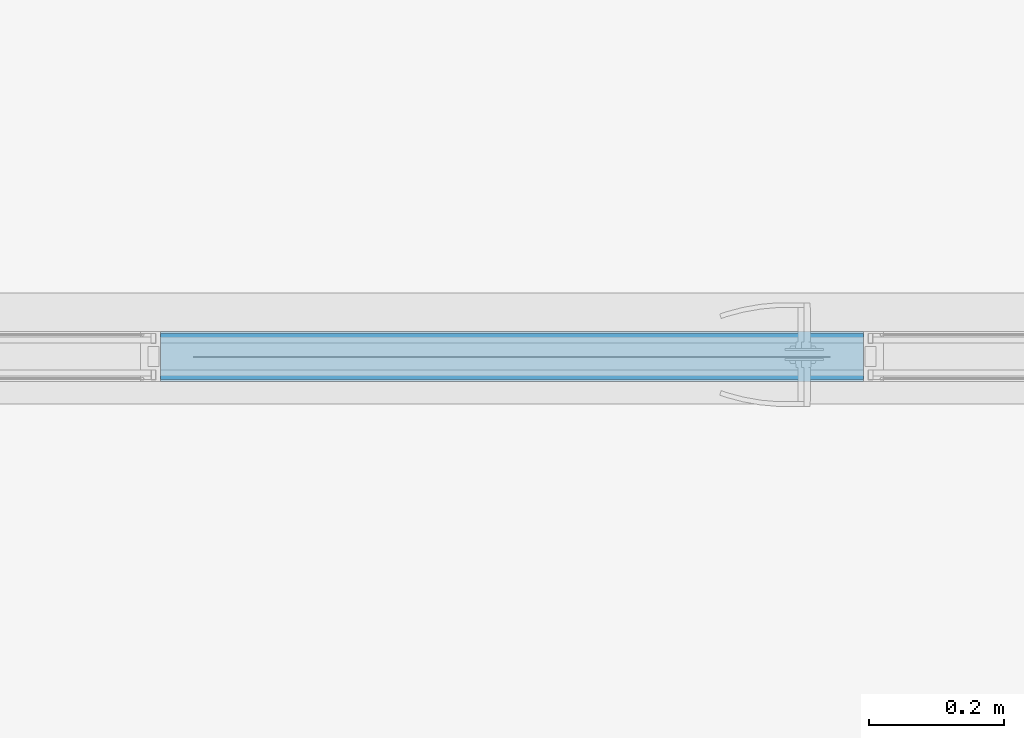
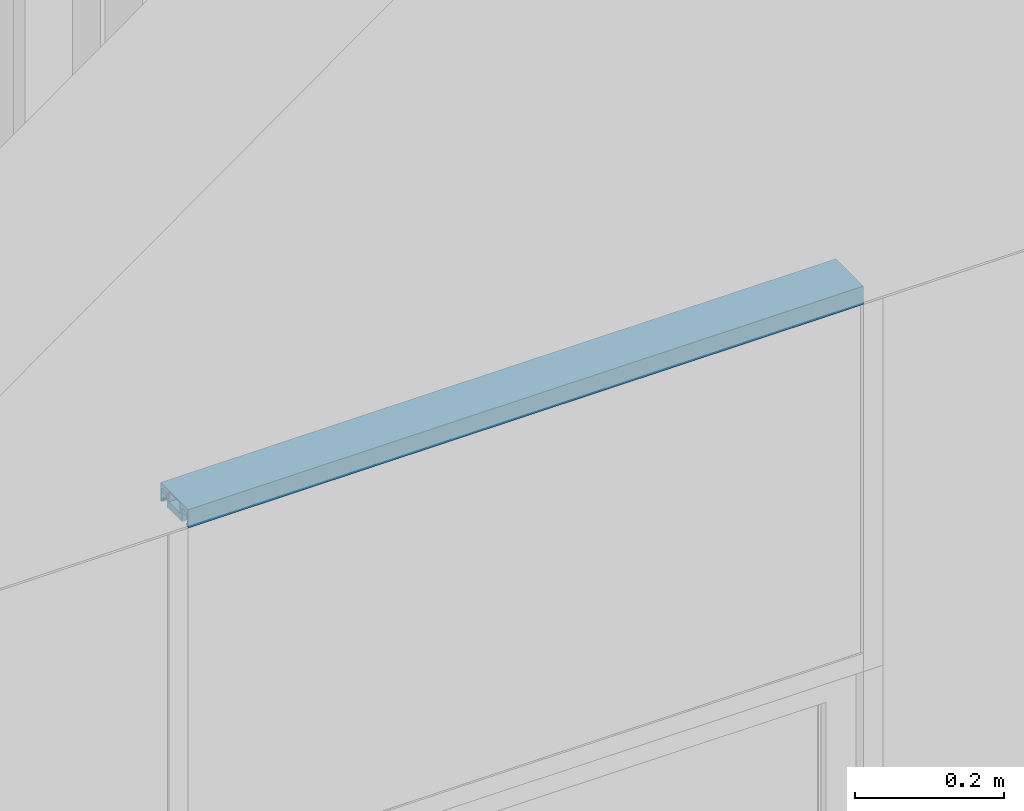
# One storey, part 76 of 387: 2 building element parts, 2 elements without a shape of their own.
"""IFC2X3 building model written with IfcOpenShell, lengths in millimetres."""

from ifc_helpers import new_model, entity, si_unit, converted_unit, derived_unit, money_unit, direction, frame, origin_with_axes, place, context, subcontext, project, spatial, faceted_brep, source, transform, mapped, material, type_object, element, aggregate, save


model = new_model("IFC2X3")

# Units and contexts
model_context = context("Model", 3, precision=0.01, world=origin_with_axes(), true_north=direction((0.0, 1.0)))
body_context = subcontext(model_context, "Body", "Model", "MODEL_VIEW")
ifc_project = project(units=[si_unit("LENGTHUNIT", "METRE", prefix="MILLI"), si_unit("AREAUNIT", "SQUARE_METRE"), si_unit("VOLUMEUNIT", "CUBIC_METRE"), converted_unit("PLANEANGLEUNIT", "DEGREE", entity("IfcPlaneAngleMeasure", 0.0174532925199), si_unit("PLANEANGLEUNIT", "RADIAN"), dimensions=[0, 0, 0, 0, 0, 0, 0]), si_unit("SOLIDANGLEUNIT", "STERADIAN"), money_unit("EUR"), converted_unit("TIMEUNIT", "Year", entity("IfcTimeMeasure", 31556926.0), si_unit("TIMEUNIT", "SECOND"), dimensions=[0, 0, 1, 0, 0, 0, 0]), si_unit("MASSUNIT", "GRAM", prefix="KILO"), si_unit("THERMODYNAMICTEMPERATUREUNIT", "DEGREE_CELSIUS"), si_unit("LUMINOUSINTENSITYUNIT", "LUMEN"), si_unit("ENERGYUNIT", "JOULE", prefix="MEGA"), derived_unit("THERMALCONDUCTANCEUNIT", [(si_unit("POWERUNIT", "WATT"), 1), (si_unit("LENGTHUNIT", "METRE"), -1), (si_unit("THERMODYNAMICTEMPERATUREUNIT", "KELVIN"), -1)]), derived_unit("SPECIFICHEATCAPACITYUNIT", [(si_unit("ENERGYUNIT", "JOULE"), 1), (si_unit("MASSUNIT", "GRAM", prefix="KILO"), -1), (si_unit("THERMODYNAMICTEMPERATUREUNIT", "KELVIN"), -1)]), derived_unit("MASSDENSITYUNIT", [(si_unit("MASSUNIT", "GRAM", prefix="KILO"), 1), (si_unit("VOLUMEUNIT", "CUBIC_METRE"), -1)])], contexts=[model_context])

# Site, building, storey
site_placement = place(None, origin_with_axes())
site = spatial("IfcSite", under=ifc_project, at=site_placement, Name="Puškini 31, Narva", CompositionType="ELEMENT")
building_placement = place(site_placement, origin_with_axes())
building = spatial("IfcBuilding", under=site, at=building_placement, Name="Narva Riigigümnaasium", CompositionType="ELEMENT")
storey_placement = place(building_placement, frame((0.0, 0.0, 2640.0), z_axis=(0.0, 0.0, 1.0), x_axis=(1.0, 0.0, 0.0)))
storey = spatial("IfcBuildingStorey", under=building, at=storey_placement, Name="2.korrus +2.64", CompositionType="ELEMENT", Elevation=2640.0)

# Curtain wall, member, building element parts
curtain_wall_type = type_object("IfcCurtainWallType", Name="Curtain Wall Type", PredefinedType="NOTDEFINED")
curtain_wall_placement = place(storey_placement, frame((37550.2857124, 173462.999993, -4.40148757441e-05), z_axis=(0.0, 0.0, 1.0), x_axis=(1.0, 0.0, 0.0)))
curtain_wall = element("IfcCurtainWall", 1, at=curtain_wall_placement, inside=storey, type_object=curtain_wall_type, Name="G-SKLF-27")
member_type = type_object("IfcMemberType", Name="30 x 37", PredefinedType="MULLION")
member_placement = place(curtain_wall_placement, frame((451.714285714, 3.12638803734e-09, 3030.00004891), z_axis=(1.0, 0.0, 0.0), x_axis=(0.0, 0.0, -1.0)))
member = element("IfcMember", 2, at=member_placement, type_object=member_type, Name="G-SKLF-60-raam", ObjectType="MULLION")
aggregate(curtain_wall, [member])
ifc_material_1 = material(Name="Klaasvill")
shared_shape_1 = source(origin_with_axes(), body_context, "Body", "Brep", [
    faceted_brep([(7.49999990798, 20.000000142, 0.0), (13.8499999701, 20.000000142, 0.0), (13.8499999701, 20.000000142, 1044.0), (7.49999990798, 20.000000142, 1044.0), (7.49999990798, 34.0161444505, 0.0), (13.8499999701, 34.0161444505, 0.0), (13.8499999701, 34.0161444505, 1044.0), (7.49999990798, 34.0161444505, 1044.0)], [[[0, 1, 2, 3]], [[0, 4, 5, 1]], [[1, 5, 6, 2]], [[3, 2, 6, 7]], [[4, 0, 3, 7]], [[5, 4, 7, 6]]]),
    faceted_brep([(24.987414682, 34.0161444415, 0.0), (25.004489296, 32.0307503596, 0.0), (25.004489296, 32.0307503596, 1044.0), (24.987414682, 34.0161444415, 1044.0), (28.5126239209, 34.0161444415, 0.0), (28.7655837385, 33.0385325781, 0.0), (28.4955493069, 32.0307503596, 0.0), (27.75780152, 31.2930025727, 0.0), (26.7500193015, 31.0229681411, 0.0), (25.742237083, 31.2930025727, 0.0), (25.742237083, 31.2930025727, 1044.0), (26.7500193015, 31.0229681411, 1044.0), (27.75780152, 31.2930025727, 1044.0), (28.4955493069, 32.0307503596, 1044.0), (28.7655837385, 33.0385325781, 1044.0), (28.5126239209, 34.0161444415, 1044.0)], [[[0, 1, 2, 3]], [[0, 4, 5, 6, 7, 8, 9, 1]], [[1, 9, 10, 2]], [[3, 2, 10, 11, 12, 13, 14, 15]], [[4, 0, 3, 15]], [[5, 4, 15, 14]], [[6, 5, 14, 13]], [[7, 6, 13, 12]], [[8, 7, 12, 11]], [[9, 8, 11, 10]]]),
    faceted_brep([(7.49999990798, -19.9999997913, 0.0), (7.49999990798, -34.0161445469, 0.0), (7.49999990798, -34.0161445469, 1044.0), (7.49999990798, -19.9999997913, 1044.0), (13.8499999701, -19.9999997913, 0.0), (13.8499999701, -34.0161445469, 0.0), (13.8499999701, -34.0161445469, 1044.0), (13.8499999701, -19.9999997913, 1044.0)], [[[0, 1, 2, 3]], [[0, 4, 5, 1]], [[1, 5, 6, 2]], [[3, 2, 6, 7]], [[4, 0, 3, 7]], [[5, 4, 7, 6]]]),
    faceted_brep([(25.004489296, -32.0307503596, 0.0), (24.987414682, -34.0161444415, 0.0), (24.987414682, -34.0161444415, 1044.0), (25.004489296, -32.0307503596, 1044.0), (25.742237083, -31.2930025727, 0.0), (26.7500193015, -31.0229681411, 0.0), (27.75780152, -31.2930025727, 0.0), (28.4955493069, -32.0307503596, 0.0), (28.7655837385, -33.0385325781, 0.0), (28.5126239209, -34.0161444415, 0.0), (28.5126239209, -34.0161444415, 1044.0), (28.7655837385, -33.0385325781, 1044.0), (28.4955493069, -32.0307503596, 1044.0), (27.75780152, -31.2930025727, 1044.0), (26.7500193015, -31.0229681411, 1044.0), (25.742237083, -31.2930025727, 1044.0)], [[[0, 1, 2, 3]], [[0, 4, 5, 6, 7, 8, 9, 1]], [[1, 9, 10, 2]], [[3, 2, 10, 11, 12, 13, 14, 15]], [[4, 0, 3, 15]], [[5, 4, 15, 14]], [[6, 5, 14, 13]], [[7, 6, 13, 12]], [[8, 7, 12, 11]], [[9, 8, 11, 10]]]),
])
building_element_part_1_placement = place(member_placement, origin_with_axes())
building_element_part_1 = element("IfcBuildingElementPart", 3, at=building_element_part_1_placement, material=ifc_material_1, Name="Klaasvill", context=body_context, shape_type="MappedRepresentation", body=[
    mapped(shared_shape_1, transform((0.0, 0.0, 0.0))),
])
ifc_material_2 = material(Name="Teras RAL7012")
shared_shape_2 = source(origin_with_axes(), body_context, "Body", "Brep", [
    faceted_brep([(0.0, -17.0000000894, 0.0), (29.5999996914, -17.0000000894, 0.0), (29.5999996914, -17.0000000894, 1044.0), (0.0, -17.0000000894, 1044.0), (0.0, 17.0000000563, 0.0), (29.5999996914, 17.0000000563, 0.0), (1.9999999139, 15.0000001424, 0.0), (1.9999999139, -15.0000001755, 0.0), (18.7999996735, -15.0000001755, 0.0), (18.7999996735, 15.0000001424, 0.0), (29.5999996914, 17.0000000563, 1044.0), (0.0, 17.0000000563, 1044.0), (1.9999999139, 15.0000001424, 1044.0), (18.7999996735, 15.0000001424, 1044.0), (18.7999996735, -15.0000001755, 1044.0), (1.9999999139, -15.0000001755, 1044.0)], [[[0, 1, 2, 3]], [[0, 4, 5, 1], [6, 7, 8, 9]], [[1, 5, 10, 2]], [[3, 2, 10, 11], [12, 13, 14, 15]], [[4, 0, 3, 11]], [[5, 4, 11, 10]], [[7, 6, 12, 15]], [[8, 7, 15, 14]], [[9, 8, 14, 13]], [[6, 9, 13, 12]]]),
    faceted_brep([(0.0, 17.0, 0.0), (29.5999996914, 17.0000000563, 0.0), (29.5999996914, 17.0000000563, 1044.0), (0.0, 17.0, 1044.0), (0.0, 37.0, 0.0), (30.0000193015, 37.0, 0.0), (30.0000193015, 34.0161444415, 0.0), (28.5126239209, 34.0161444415, 0.0), (24.987414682, 34.0161444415, 0.0), (13.8499999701, 34.0161444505, 0.0), (7.49999999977, 34.0161444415, 0.0), (7.49999999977, 20.0, 0.0), (13.8499999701, 20.000000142, 0.0), (30.0000193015, 20.0, 0.0), (30.0000193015, 17.0, 0.0), (30.0000193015, 17.0, 1044.0), (30.0000193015, 20.0, 1044.0), (13.8499999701, 20.000000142, 1044.0), (7.49999999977, 20.0, 1044.0), (7.49999999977, 34.0161444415, 1044.0), (13.8499999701, 34.0161444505, 1044.0), (24.987414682, 34.0161444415, 1044.0), (28.5126239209, 34.0161444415, 1044.0), (30.0000193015, 34.0161444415, 1044.0), (30.0000193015, 37.0, 1044.0), (0.0, 37.0, 1044.0)], [[[0, 1, 2, 3]], [[0, 4, 5, 6, 7, 8, 9, 10, 11, 12, 13, 14, 1]], [[1, 14, 15, 2]], [[3, 2, 15, 16, 17, 18, 19, 20, 21, 22, 23, 24, 25]], [[4, 0, 3, 25]], [[5, 4, 25, 24]], [[6, 5, 24, 23]], [[7, 6, 23, 22]], [[8, 7, 22, 21]], [[9, 8, 21, 20]], [[10, 9, 20, 19]], [[11, 10, 19, 18]], [[12, 11, 18, 17]], [[13, 12, 17, 16]], [[14, 13, 16, 15]]]),
    faceted_brep([(0.0, -17.0, 0.0), (0.0, -37.0, 0.0), (0.0, -37.0, 1044.0), (0.0, -17.0, 1044.0), (29.5999996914, -17.0000000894, 0.0), (30.0000193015, -17.0, 0.0), (30.0000193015, -20.0, 0.0), (13.8499999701, -19.9999997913, 0.0), (7.49999999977, -20.0, 0.0), (7.49999999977, -34.0161444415, 0.0), (13.8499999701, -34.0161445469, 0.0), (24.987414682, -34.0161444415, 0.0), (28.5126239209, -34.0161444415, 0.0), (30.0000193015, -34.0161444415, 0.0), (30.0000193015, -37.0, 0.0), (30.0000193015, -37.0, 1044.0), (30.0000193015, -34.0161444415, 1044.0), (28.5126239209, -34.0161444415, 1044.0), (24.987414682, -34.0161444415, 1044.0), (13.8499999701, -34.0161445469, 1044.0), (7.49999999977, -34.0161444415, 1044.0), (7.49999999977, -20.0, 1044.0), (13.8499999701, -19.9999997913, 1044.0), (30.0000193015, -20.0, 1044.0), (30.0000193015, -17.0, 1044.0), (29.5999996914, -17.0000000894, 1044.0)], [[[0, 1, 2, 3]], [[0, 4, 5, 6, 7, 8, 9, 10, 11, 12, 13, 14, 1]], [[1, 14, 15, 2]], [[3, 2, 15, 16, 17, 18, 19, 20, 21, 22, 23, 24, 25]], [[4, 0, 3, 25]], [[5, 4, 25, 24]], [[6, 5, 24, 23]], [[7, 6, 23, 22]], [[8, 7, 22, 21]], [[9, 8, 21, 20]], [[10, 9, 20, 19]], [[11, 10, 19, 18]], [[12, 11, 18, 17]], [[13, 12, 17, 16]], [[14, 13, 16, 15]]]),
])
building_element_part_2_placement = place(member_placement, origin_with_axes())
building_element_part_2 = element("IfcBuildingElementPart", 4, at=building_element_part_2_placement, material=ifc_material_2, Name="Teras RAL7012", context=body_context, shape_type="MappedRepresentation", body=[
    mapped(shared_shape_2, transform((0.0, 0.0, 0.0))),
])
aggregate(member, [building_element_part_1, building_element_part_2])

save(model, "model.ifc")
